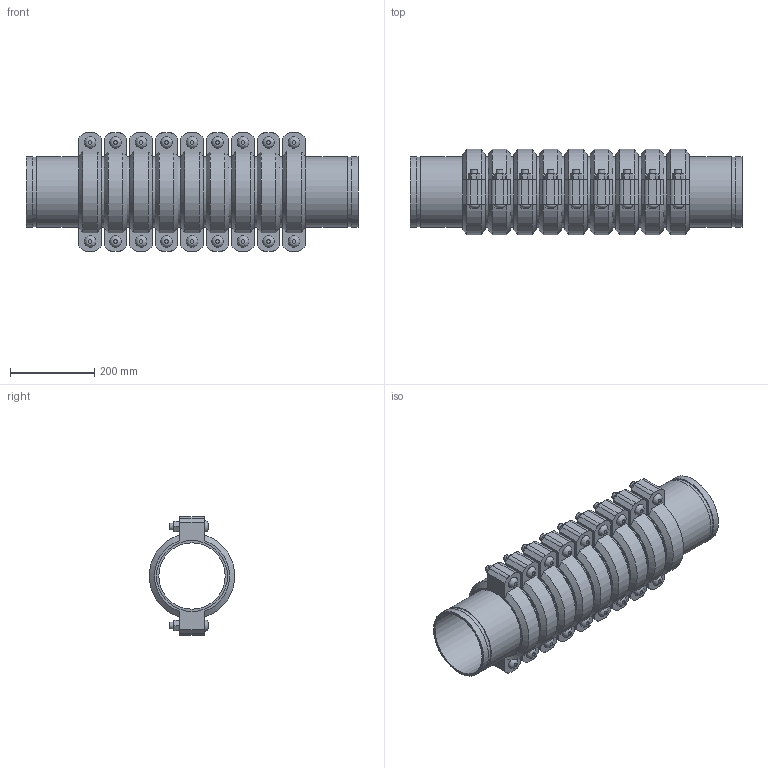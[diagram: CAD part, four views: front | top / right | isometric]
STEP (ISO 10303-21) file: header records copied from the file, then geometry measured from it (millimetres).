
FILE_DESCRIPTION(/* description */ ('VIC EXPANSION JOINT 9 COUPLINGS COMPRESSED STYLE 155 (OGS)','CAx-IF Rec.Pracs.---Representation and Presentation of Product Manufacturing Information (PMI)---4.0---2014-10-13'),/* implementation_level */ '2;1');
FILE_NAME(/* name */ 'C:\Users\kkamble\AppData\Roaming\Autodesk\ApplicationPlugins\Victaulic.Temp\A901\Victaulic_IPS_Expansion Joint_Compressed_9 Couplings_Style 155 (OGS)_6 (150).stp',/* time_stamp */ '2021-06-27T00:38:45+02:00',/* author */ ('kkamble'),/* organization */ ('Victaulic'),/* preprocessor_version */ 'ST-DEVELOPER v17.2',/* originating_system */ 'Autodesk Inventor 2019',/* authorisation */ '');
FILE_SCHEMA (('AP242_MANAGED_MODEL_BASED_3D_ENGINEERING_MIM_LF { 1 0 10303 442 1 1 4 }'));
Length unit declared in the file: inch
Products named in the file (4): 155-06.0; Nipple-06.0; Nipple-06.0_1; 075_9_Coup-06.0
Assembly tree (19 placements, depth 2):
  155-06.0
    Nipple-06.0  x2
    Nipple-06.0_1  x8
    075_9_Coup-06.0  x9
Bounding box: 787.65 x 202.46 x 281.18 mm (x, y, z)
Volume: 8766684.3 mm3; surface area: 1919770.4 mm2
Topology: 19 solids, 37 shells, 633 faces, 1497 edges, 1050 vertices
Faces by surface type: plane 384, cylinder 195, cone 36, bspline 18
Full cylindrical faces by diameter (mm): 15.875 x36, 17.424 x18, 157.15 x10, 161.925 x9, 163.957 x20, 168.275 x48
Entity records: 2874 total; most frequent: CARTESIAN_POINT 503, DIRECTION 481, ORIENTED_EDGE 386, AXIS2_PLACEMENT_3D 194, EDGE_CURVE 193, VERTEX_POINT 138, EDGE_LOOP 107, LINE 93
